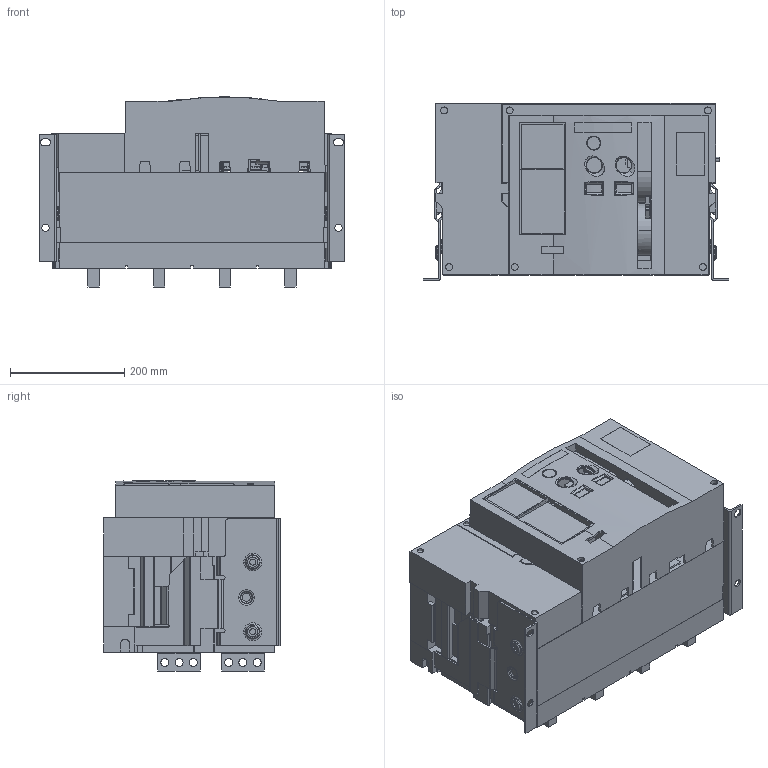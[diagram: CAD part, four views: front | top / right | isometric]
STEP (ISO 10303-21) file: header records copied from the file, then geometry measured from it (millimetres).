
FILE_DESCRIPTION(('CAx-IF Rec.Pracs.---Model Styling and Organization---1.2---2011-12-15','CAx-IF Rec.Pracs.---Geometric and Assembly Validation Properties---4.1---2014-06-16','CAx-IF Rec.Pracs.---PMI Polyline Presentation---2.0---2013-05-24'),'2;1');
FILE_NAME('YON AD-4000-S4-F 4P.stp','2021-07-13T11:35:12+03:00',(''),(''),'STEP Interface 4.4 by CT CoreTechnologie','3D_Evolution4.4 by CT CoreTechnologie','');
FILE_SCHEMA(('AUTOMOTIVE_DESIGN { 1 0 10303 214 1 1 1 1 }'));
Length unit declared in the file: millimetre
Products named in the file (1): YON AD-4000-S4-F 4P
Bounding box: 536 x 311 x 333.39 mm (x, y, z)
Surface area: 2328684.6 mm2 (no closed solid volume)
Topology: 0 solids, 30 shells, 2336 faces, 6622 edges, 4408 vertices
Faces by surface type: plane 1452, cylinder 677, bspline 207
Entity records: 155532 total; most frequent: CARTESIAN_POINT 18907, ORIENTED_EDGE 13232, DIRECTION 12621, PROPERTY_DEFINITION 10145, EDGE_CURVE 6616, REPRESENTATION 5081, GENERAL_PROPERTY 5081, PROPERTY_DEFINITION_REPRESENTATION 5081
